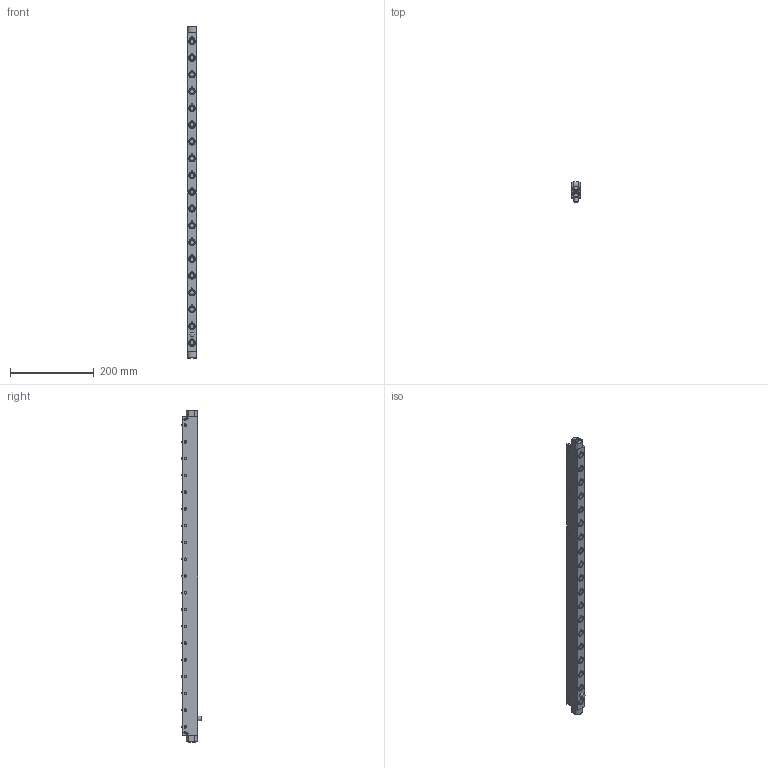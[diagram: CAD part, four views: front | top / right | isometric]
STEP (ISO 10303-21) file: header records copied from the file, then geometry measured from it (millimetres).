
FILE_DESCRIPTION(/* description */ (''),/* implementation_level */ '2;1');
FILE_NAME(/* name */ 'S:\EASCN Vault\Designs\Standard Part\DIE LIFTERS\EHR\EHR- 3D step\EHR22-C - 3D step complete serie\EHR22-19-C.stp',/* time_stamp */ '2019-09-06T13:38:37+08:00',/* author */ ('yue.yang'),/* organization */ (''),/* preprocessor_version */ 'ST-DEVELOPER v17',/* originating_system */ 'Autodesk Inventor 2019',/* authorisation */ '');
FILE_SCHEMA (('AUTOMOTIVE_DESIGN { 1 0 10303 214 3 1 1 }'));
Length unit declared in the file: millimetre
Products named in the file (1): EHR22-19-C_Shrinkwrap_1
Bounding box: 21.8 x 48.05 x 792 mm (x, y, z)
Volume: 478899.1 mm3; surface area: 188037.6 mm2
Topology: 17 solids, 17 shells, 1162 faces, 3334 edges, 2321 vertices
Faces by surface type: cylinder 389, plane 321, cone 220, torus 193, sphere 39
Full cylindrical faces by diameter (mm): 3 x10, 3.2 x8, 4 x8, 5 x76, 6 x28, 8.566 x2, 10 x3, 11 x19, 12.5 x38, 13.4 x19, 13.8 x19, 15.95 x38, 16 x41
Entity records: 43144 total; most frequent: CARTESIAN_POINT 9926, DIRECTION 7366, ORIENTED_EDGE 6614, EDGE_CURVE 3307, AXIS2_PLACEMENT_3D 3257, VERTEX_POINT 2321, CIRCLE 2094, EDGE_LOOP 1392
